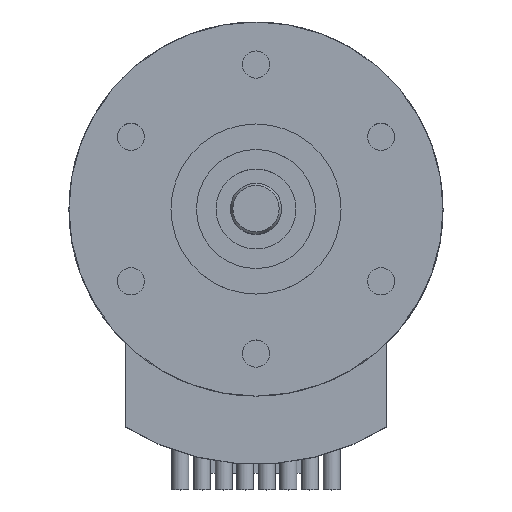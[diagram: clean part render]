
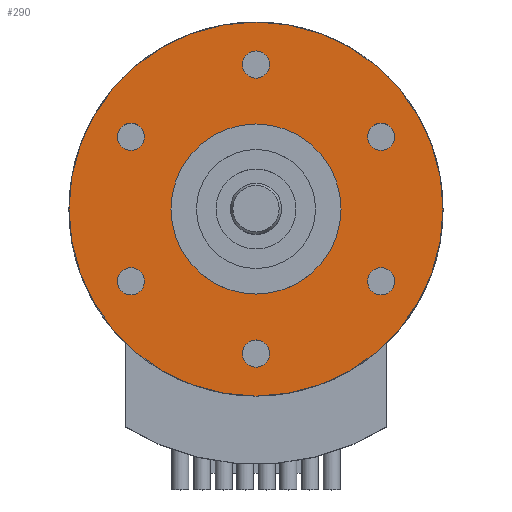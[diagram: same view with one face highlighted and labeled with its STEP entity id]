
A CAD part, top view. The second image highlights one B-rep face of the part: STEP entity #290.
In plain terms, the highlighted planar face has unit normal (0, 0, 1).
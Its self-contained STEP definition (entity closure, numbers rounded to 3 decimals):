
#91=FACE_BOUND('',#487,.T.);
#92=FACE_BOUND('',#488,.T.);
#93=FACE_BOUND('',#489,.T.);
#94=FACE_BOUND('',#490,.T.);
#95=FACE_BOUND('',#491,.T.);
#96=FACE_BOUND('',#492,.T.);
#97=FACE_BOUND('',#493,.T.);
#98=FACE_BOUND('',#494,.T.);
#205=CIRCLE('',#1427,11.);
#206=CIRCLE('',#1429,0.8);
#207=CIRCLE('',#1430,0.8);
#208=CIRCLE('',#1431,0.8);
#209=CIRCLE('',#1432,0.8);
#210=CIRCLE('',#1433,0.8);
#211=CIRCLE('',#1434,0.8);
#212=CIRCLE('',#1435,5.);
#290=ADVANCED_FACE('',(#91,#92,#93,#94,#95,#96,#97,#98),#381,.T.);
#381=PLANE('',#1436);
#487=EDGE_LOOP('',(#715));
#488=EDGE_LOOP('',(#716));
#489=EDGE_LOOP('',(#717));
#490=EDGE_LOOP('',(#718));
#491=EDGE_LOOP('',(#719));
#492=EDGE_LOOP('',(#720));
#493=EDGE_LOOP('',(#721));
#494=EDGE_LOOP('',(#722));
#715=ORIENTED_EDGE('',*,*,#1152,.T.);
#716=ORIENTED_EDGE('',*,*,#1153,.T.);
#717=ORIENTED_EDGE('',*,*,#1154,.T.);
#718=ORIENTED_EDGE('',*,*,#1155,.T.);
#719=ORIENTED_EDGE('',*,*,#1156,.T.);
#720=ORIENTED_EDGE('',*,*,#1157,.T.);
#721=ORIENTED_EDGE('',*,*,#1158,.F.);
#722=ORIENTED_EDGE('',*,*,#1151,.F.);
#1010=VERTEX_POINT('',#2181);
#1011=VERTEX_POINT('',#2184);
#1012=VERTEX_POINT('',#2186);
#1013=VERTEX_POINT('',#2188);
#1014=VERTEX_POINT('',#2190);
#1015=VERTEX_POINT('',#2192);
#1016=VERTEX_POINT('',#2194);
#1017=VERTEX_POINT('',#2196);
#1151=EDGE_CURVE('',#1010,#1010,#205,.T.);
#1152=EDGE_CURVE('',#1011,#1011,#206,.T.);
#1153=EDGE_CURVE('',#1012,#1012,#207,.T.);
#1154=EDGE_CURVE('',#1013,#1013,#208,.T.);
#1155=EDGE_CURVE('',#1014,#1014,#209,.T.);
#1156=EDGE_CURVE('',#1015,#1015,#210,.T.);
#1157=EDGE_CURVE('',#1016,#1016,#211,.T.);
#1158=EDGE_CURVE('',#1017,#1017,#212,.T.);
#1427=AXIS2_PLACEMENT_3D('',#2180,#1709,#1710);
#1429=AXIS2_PLACEMENT_3D('',#2183,#1713,#1714);
#1430=AXIS2_PLACEMENT_3D('',#2185,#1715,#1716);
#1431=AXIS2_PLACEMENT_3D('',#2187,#1717,#1718);
#1432=AXIS2_PLACEMENT_3D('',#2189,#1719,#1720);
#1433=AXIS2_PLACEMENT_3D('',#2191,#1721,#1722);
#1434=AXIS2_PLACEMENT_3D('',#2193,#1723,#1724);
#1435=AXIS2_PLACEMENT_3D('',#2195,#1725,#1726);
#1436=AXIS2_PLACEMENT_3D('',#2197,#1727,#1728);
#1709=DIRECTION('',(0.,0.,-1.));
#1710=DIRECTION('',(1.,0.,0.));
#1713=DIRECTION('',(0.,0.,-1.));
#1714=DIRECTION('',(-1.,0.,0.));
#1715=DIRECTION('',(0.,0.,-1.));
#1716=DIRECTION('',(-1.,0.,0.));
#1717=DIRECTION('',(0.,0.,-1.));
#1718=DIRECTION('',(-1.,0.,0.));
#1719=DIRECTION('',(0.,0.,-1.));
#1720=DIRECTION('',(-1.,0.,0.));
#1721=DIRECTION('',(0.,0.,-1.));
#1722=DIRECTION('',(-1.,0.,0.));
#1723=DIRECTION('',(0.,0.,-1.));
#1724=DIRECTION('',(-1.,0.,0.));
#1725=DIRECTION('',(0.,0.,1.));
#1726=DIRECTION('',(1.,0.,0.));
#1727=DIRECTION('',(0.,0.,1.));
#1728=DIRECTION('',(1.,0.,0.));
#2180=CARTESIAN_POINT('',(0.,0.,0.));
#2181=CARTESIAN_POINT('',(11.,0.,0.));
#2183=CARTESIAN_POINT('',(7.361,4.25,0.));
#2184=CARTESIAN_POINT('',(6.561,4.25,0.));
#2185=CARTESIAN_POINT('',(7.361,-4.25,0.));
#2186=CARTESIAN_POINT('',(6.561,-4.25,0.));
#2187=CARTESIAN_POINT('',(0.,-8.5,0.));
#2188=CARTESIAN_POINT('',(-0.8,-8.5,0.));
#2189=CARTESIAN_POINT('',(-7.361,-4.25,0.));
#2190=CARTESIAN_POINT('',(-8.161,-4.25,0.));
#2191=CARTESIAN_POINT('',(-7.361,4.25,0.));
#2192=CARTESIAN_POINT('',(-8.161,4.25,0.));
#2193=CARTESIAN_POINT('',(0.,8.5,0.));
#2194=CARTESIAN_POINT('',(-0.8,8.5,0.));
#2195=CARTESIAN_POINT('',(0.,0.,0.));
#2196=CARTESIAN_POINT('',(5.,0.,0.));
#2197=CARTESIAN_POINT('',(0.,0.,0.));
